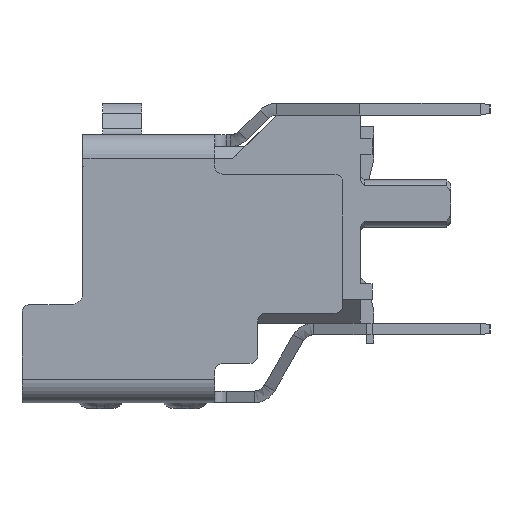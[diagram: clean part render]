
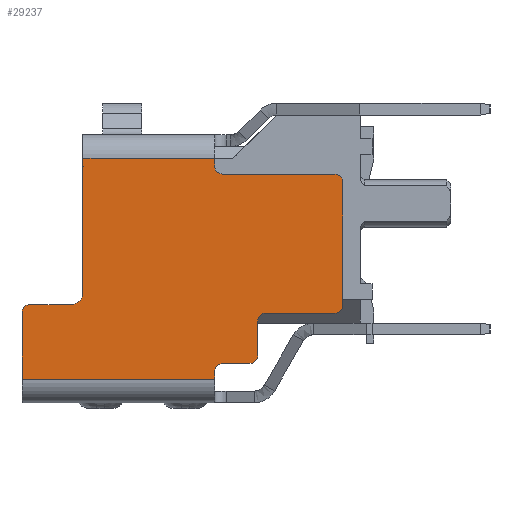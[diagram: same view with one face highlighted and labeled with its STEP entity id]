
A CAD part, left-side view. The second image highlights one B-rep face of the part: STEP entity #29237.
In plain terms, the highlighted planar face has unit normal (-1, 0, 0).
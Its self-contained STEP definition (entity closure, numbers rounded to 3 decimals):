
#6659=DIRECTION('',(0.,0.,-1.));
#6660=VECTOR('',#6659,1.7);
#6661=CARTESIAN_POINT('',(-12.9,8.37,-1.97));
#6662=LINE('',#6661,#6660);
#6850=DIRECTION('',(0.,-1.,0.));
#6851=VECTOR('',#6850,4.9);
#6852=CARTESIAN_POINT('',(-12.9,8.37,-3.67));
#6853=LINE('',#6852,#6851);
#6854=CARTESIAN_POINT('',(-12.9,6.62,1.78));
#6855=DIRECTION('',(1.,0.,0.));
#6856=DIRECTION('',(0.,0.978,-0.207));
#6857=AXIS2_PLACEMENT_3D('',#6854,#6855,#6856);
#6859=DIRECTION('',(0.,0.,-1.));
#6860=VECTOR('',#6859,0.2);
#6861=CARTESIAN_POINT('',(-12.9,3.47,1.95));
#6862=LINE('',#6861,#6860);
#6863=CARTESIAN_POINT('',(-12.9,3.27,1.75));
#6864=DIRECTION('',(-1.,0.,0.));
#6865=DIRECTION('',(0.,1.,0.));
#6866=AXIS2_PLACEMENT_3D('',#6863,#6864,#6865);
#6868=CARTESIAN_POINT('',(-12.9,0.42,1.35));
#6869=DIRECTION('',(1.,0.,0.));
#6870=DIRECTION('',(0.,0.,1.));
#6871=AXIS2_PLACEMENT_3D('',#6868,#6869,#6870);
#6873=DIRECTION('',(0.,0.,-1.));
#6874=VECTOR('',#6873,3.14);
#6875=CARTESIAN_POINT('',(-12.9,0.22,1.35));
#6876=LINE('',#6875,#6874);
#6877=CARTESIAN_POINT('',(-12.9,0.42,-1.79));
#6878=DIRECTION('',(1.,0.,0.));
#6879=DIRECTION('',(0.,-1.,0.));
#6880=AXIS2_PLACEMENT_3D('',#6877,#6878,#6879);
#6882=DIRECTION('',(0.,1.,0.));
#6883=VECTOR('',#6882,1.76);
#6884=CARTESIAN_POINT('',(-12.9,0.42,-1.99));
#6885=LINE('',#6884,#6883);
#6886=CARTESIAN_POINT('',(-12.9,2.18,-2.19));
#6887=DIRECTION('',(-1.,0.,0.));
#6888=DIRECTION('',(0.,0.,1.));
#6889=AXIS2_PLACEMENT_3D('',#6886,#6887,#6888);
#6891=DIRECTION('',(0.,0.,-1.));
#6892=VECTOR('',#6891,0.88);
#6893=CARTESIAN_POINT('',(-12.9,2.38,-2.19));
#6894=LINE('',#6893,#6892);
#6895=CARTESIAN_POINT('',(-12.9,2.58,-3.07));
#6896=DIRECTION('',(1.,0.,0.));
#6897=DIRECTION('',(0.,-1.,0.));
#6898=AXIS2_PLACEMENT_3D('',#6895,#6896,#6897);
#6900=DIRECTION('',(0.,1.,0.));
#6901=VECTOR('',#6900,0.69);
#6902=CARTESIAN_POINT('',(-12.9,2.58,-3.27));
#6903=LINE('',#6902,#6901);
#6904=CARTESIAN_POINT('',(-12.9,3.27,-3.47));
#6905=DIRECTION('',(-1.,0.,0.));
#6906=DIRECTION('',(0.,0.,1.));
#6907=AXIS2_PLACEMENT_3D('',#6904,#6905,#6906);
#6909=DIRECTION('',(0.,0.,-1.));
#6910=VECTOR('',#6909,0.2);
#6911=CARTESIAN_POINT('',(-12.9,3.47,-3.47));
#6912=LINE('',#6911,#6910);
#6913=CARTESIAN_POINT('',(-12.9,8.17,-1.97));
#6914=DIRECTION('',(1.,0.,0.));
#6915=DIRECTION('',(0.,1.,0.));
#6916=AXIS2_PLACEMENT_3D('',#6913,#6914,#6915);
#6918=CARTESIAN_POINT('',(-12.9,7.12,-1.47));
#6919=DIRECTION('',(-1.,0.,0.));
#6920=DIRECTION('',(0.,0.,-1.));
#6921=AXIS2_PLACEMENT_3D('',#6918,#6919,#6920);
#6923=DIRECTION('',(0.,0.,-1.));
#6924=VECTOR('',#6923,3.209);
#6925=CARTESIAN_POINT('',(-12.9,6.82,1.739));
#6926=LINE('',#6925,#6924);
#7008=DIRECTION('',(0.,1.,0.));
#7009=VECTOR('',#7008,0.004);
#7010=CARTESIAN_POINT('',(-12.9,6.816,1.739));
#7011=LINE('',#7010,#7009);
#7042=DIRECTION('',(0.,0.,-1.));
#7043=VECTOR('',#7042,0.17);
#7044=CARTESIAN_POINT('',(-12.9,6.82,1.95));
#7045=LINE('',#7044,#7043);
#7080=DIRECTION('',(0.,1.,0.));
#7081=VECTOR('',#7080,2.85);
#7082=CARTESIAN_POINT('',(-12.9,0.42,1.55));
#7083=LINE('',#7082,#7081);
#7144=DIRECTION('',(0.,1.,0.));
#7145=VECTOR('',#7144,3.35);
#7146=CARTESIAN_POINT('',(-12.9,3.47,1.95));
#7147=LINE('',#7146,#7145);
#7362=DIRECTION('',(0.,1.,0.));
#7363=VECTOR('',#7362,1.05);
#7364=CARTESIAN_POINT('',(-12.9,7.12,-1.77));
#7365=LINE('',#7364,#7363);
#18535=CARTESIAN_POINT('',(-12.9,8.37,-1.97));
#18536=VERTEX_POINT('',#18535);
#18537=CARTESIAN_POINT('',(-12.9,8.37,-3.67));
#18538=VERTEX_POINT('',#18537);
#18891=CARTESIAN_POINT('',(-12.9,3.47,-3.67));
#18892=VERTEX_POINT('',#18891);
#18893=CARTESIAN_POINT('',(-12.9,3.47,-3.47));
#18894=VERTEX_POINT('',#18893);
#18899=CARTESIAN_POINT('',(-12.9,6.82,1.739));
#18900=CARTESIAN_POINT('',(-12.9,6.82,-1.47));
#18901=VERTEX_POINT('',#18899);
#18902=VERTEX_POINT('',#18900);
#18903=CARTESIAN_POINT('',(-12.9,6.816,1.739));
#18904=VERTEX_POINT('',#18903);
#18905=CARTESIAN_POINT('',(-12.9,6.82,1.78));
#18906=VERTEX_POINT('',#18905);
#18907=CARTESIAN_POINT('',(-12.9,6.82,1.95));
#18908=VERTEX_POINT('',#18907);
#18909=CARTESIAN_POINT('',(-12.9,3.47,1.95));
#18910=VERTEX_POINT('',#18909);
#18911=CARTESIAN_POINT('',(-12.9,3.47,1.75));
#18912=VERTEX_POINT('',#18911);
#18913=CARTESIAN_POINT('',(-12.9,3.27,1.55));
#18914=VERTEX_POINT('',#18913);
#18915=CARTESIAN_POINT('',(-12.9,0.42,1.55));
#18916=VERTEX_POINT('',#18915);
#18917=CARTESIAN_POINT('',(-12.9,0.22,1.35));
#18918=VERTEX_POINT('',#18917);
#18919=CARTESIAN_POINT('',(-12.9,0.22,-1.79));
#18920=VERTEX_POINT('',#18919);
#18921=CARTESIAN_POINT('',(-12.9,0.42,-1.99));
#18922=VERTEX_POINT('',#18921);
#18923=CARTESIAN_POINT('',(-12.9,2.18,-1.99));
#18924=VERTEX_POINT('',#18923);
#18925=CARTESIAN_POINT('',(-12.9,2.38,-2.19));
#18926=VERTEX_POINT('',#18925);
#18927=CARTESIAN_POINT('',(-12.9,2.38,-3.07));
#18928=VERTEX_POINT('',#18927);
#18929=CARTESIAN_POINT('',(-12.9,2.58,-3.27));
#18930=VERTEX_POINT('',#18929);
#18931=CARTESIAN_POINT('',(-12.9,3.27,-3.27));
#18932=VERTEX_POINT('',#18931);
#18933=CARTESIAN_POINT('',(-12.9,8.17,-1.77));
#18934=VERTEX_POINT('',#18933);
#18935=CARTESIAN_POINT('',(-12.9,7.12,-1.77));
#18936=VERTEX_POINT('',#18935);
#29187=CARTESIAN_POINT('',(-12.9,4.295,-0.86));
#29188=DIRECTION('',(1.,0.,0.));
#29189=DIRECTION('',(0.,0.,-1.));
#29190=AXIS2_PLACEMENT_3D('',#29187,#29188,#29189);
#29191=PLANE('',#29190);
#29193=ORIENTED_EDGE('',*,*,#29192,.F.);
#29195=ORIENTED_EDGE('',*,*,#29194,.F.);
#29197=ORIENTED_EDGE('',*,*,#29196,.T.);
#29199=ORIENTED_EDGE('',*,*,#29198,.F.);
#29201=ORIENTED_EDGE('',*,*,#29200,.F.);
#29203=ORIENTED_EDGE('',*,*,#29202,.T.);
#29205=ORIENTED_EDGE('',*,*,#29204,.T.);
#29207=ORIENTED_EDGE('',*,*,#29206,.F.);
#29209=ORIENTED_EDGE('',*,*,#29208,.T.);
#29211=ORIENTED_EDGE('',*,*,#29210,.T.);
#29213=ORIENTED_EDGE('',*,*,#29212,.T.);
#29215=ORIENTED_EDGE('',*,*,#29214,.T.);
#29217=ORIENTED_EDGE('',*,*,#29216,.T.);
#29219=ORIENTED_EDGE('',*,*,#29218,.T.);
#29221=ORIENTED_EDGE('',*,*,#29220,.T.);
#29223=ORIENTED_EDGE('',*,*,#29222,.T.);
#29225=ORIENTED_EDGE('',*,*,#29224,.T.);
#29226=ORIENTED_EDGE('',*,*,#29160,.T.);
#29227=ORIENTED_EDGE('',*,*,#29181,.F.);
#29228=ORIENTED_EDGE('',*,*,#28921,.F.);
#29230=ORIENTED_EDGE('',*,*,#29229,.T.);
#29232=ORIENTED_EDGE('',*,*,#29231,.F.);
#29234=ORIENTED_EDGE('',*,*,#29233,.T.);
#29235=EDGE_LOOP('',(#29193,#29195,#29197,#29199,#29201,#29203,#29205,#29207,
#29209,#29211,#29213,#29215,#29217,#29219,#29221,#29223,#29225,#29226,#29227,
#29228,#29230,#29232,#29234));
#29236=FACE_OUTER_BOUND('',#29235,.F.);
#6858=CIRCLE('',#6857,0.2);
#6867=CIRCLE('',#6866,0.2);
#6872=CIRCLE('',#6871,0.2);
#6881=CIRCLE('',#6880,0.2);
#6890=CIRCLE('',#6889,0.2);
#6899=CIRCLE('',#6898,0.2);
#6908=CIRCLE('',#6907,0.2);
#6917=CIRCLE('',#6916,0.2);
#6922=CIRCLE('',#6921,0.3);
#28921=EDGE_CURVE('',#18536,#18538,#6662,.T.);
#29160=EDGE_CURVE('',#18894,#18892,#6912,.T.);
#29181=EDGE_CURVE('',#18538,#18892,#6853,.T.);
#29192=EDGE_CURVE('',#18901,#18902,#6926,.T.);
#29194=EDGE_CURVE('',#18904,#18901,#7011,.T.);
#29196=EDGE_CURVE('',#18904,#18906,#6858,.T.);
#29198=EDGE_CURVE('',#18908,#18906,#7045,.T.);
#29200=EDGE_CURVE('',#18910,#18908,#7147,.T.);
#29202=EDGE_CURVE('',#18910,#18912,#6862,.T.);
#29204=EDGE_CURVE('',#18912,#18914,#6867,.T.);
#29206=EDGE_CURVE('',#18916,#18914,#7083,.T.);
#29208=EDGE_CURVE('',#18916,#18918,#6872,.T.);
#29210=EDGE_CURVE('',#18918,#18920,#6876,.T.);
#29212=EDGE_CURVE('',#18920,#18922,#6881,.T.);
#29214=EDGE_CURVE('',#18922,#18924,#6885,.T.);
#29216=EDGE_CURVE('',#18924,#18926,#6890,.T.);
#29218=EDGE_CURVE('',#18926,#18928,#6894,.T.);
#29220=EDGE_CURVE('',#18928,#18930,#6899,.T.);
#29222=EDGE_CURVE('',#18930,#18932,#6903,.T.);
#29224=EDGE_CURVE('',#18932,#18894,#6908,.T.);
#29229=EDGE_CURVE('',#18536,#18934,#6917,.T.);
#29231=EDGE_CURVE('',#18936,#18934,#7365,.T.);
#29233=EDGE_CURVE('',#18936,#18902,#6922,.T.);
#29237=ADVANCED_FACE('',(#29236),#29191,.F.);
